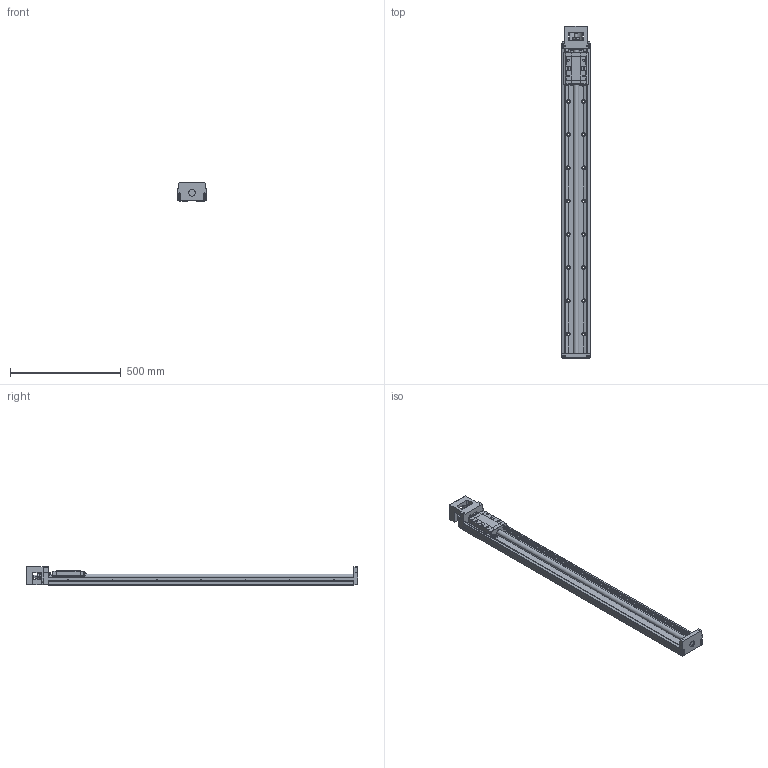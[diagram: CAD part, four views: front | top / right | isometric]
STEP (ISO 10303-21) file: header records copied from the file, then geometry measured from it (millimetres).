
FILE_DESCRIPTION(('no description'),'unknown implementation level');
FILE_NAME('KK13025P1380A1F0000_FILE_3.stp',' ',('HIWIN GmbH'),('CADClick - KiM GmbH - www.kimweb.de'),'unknown preprocess','ACIS','unknown authorization');
FILE_SCHEMA(('automotive_design'));
Length unit declared in the file: millimetre
Products named in the file (2): KK130_FILE; KK13025P1380A1F0000_FILE
Bounding box: 130 x 1498 x 83 mm (x, y, z)
Volume: 5638391.6 mm3; surface area: 810541.8 mm2
Topology: 2 solids, 7 shells, 811 faces, 2022 edges, 1309 vertices
Faces by surface type: plane 481, cylinder 284, torus 38, cone 6, sphere 2
Entity records: 47550 total; most frequent: DIRECTION 4366, CARTESIAN_POINT 4250, STYLED_ITEM 4142, PRESENTATION_STYLE_ASSIGNMENT 4142, COLOUR_RGB 4142, ORIENTED_EDGE 4040, EDGE_CURVE 2020, CURVE_STYLE 2020
